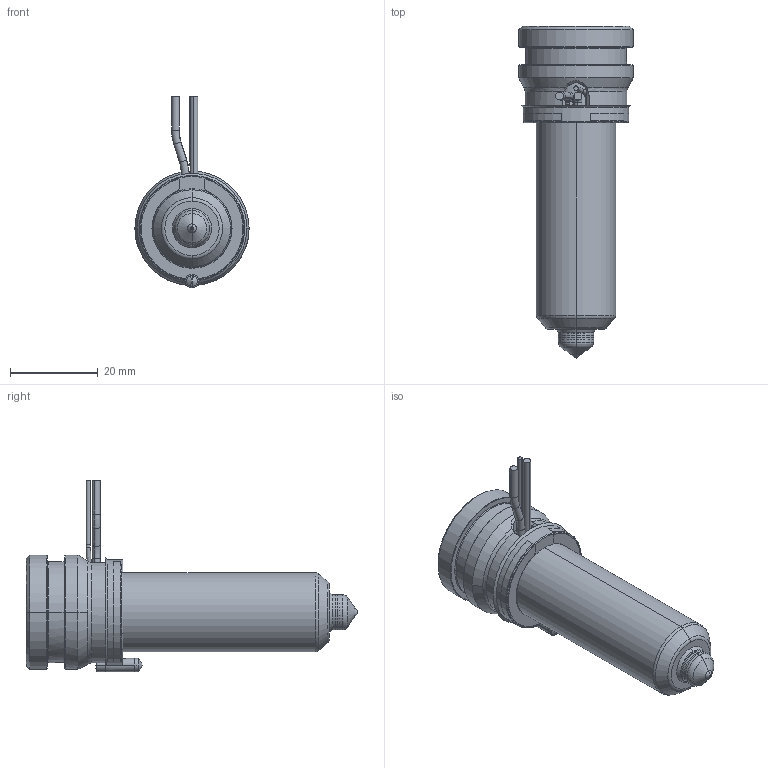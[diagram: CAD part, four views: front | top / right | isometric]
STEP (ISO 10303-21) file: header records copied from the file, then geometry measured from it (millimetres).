
FILE_DESCRIPTION((''),'2;1');
FILE_NAME('MPN-08-24-TX8-056-A','2026-02-05T11:54:08',('UPTIO'),('Thermoplay S.p.A.'),'CREO PARAMETRIC BY PTC INC, 2023494','CREO PARAMETRIC BY PTC INC, 2023494','');
FILE_SCHEMA(('CONFIG_CONTROL_DESIGN','SHAPE_APPEARANCE_LAYERS_GROUPS'));
Length unit declared in the file: millimetre
Products named in the file (1): MPN-08-24-TX8-056-A
Bounding box: 26 x 75.5 x 43.5 mm (x, y, z)
Volume: 15943 mm3; surface area: 19072.9 mm2
Topology: 2 solids, 3 shells, 548 faces, 1458 edges, 904 vertices
Faces by surface type: cylinder 180, plane 144, bspline 82, torus 64, cone 60, sphere 12, extrusion 6
Entity records: 30569 total; most frequent: CARTESIAN_POINT 14223, ORIENTED_EDGE 2896, DIRECTION 2574, EDGE_CURVE 1448, AXIS2_PLACEMENT_3D 1006, VERTEX_POINT 904, EDGE_LOOP 576, VECTOR 562
